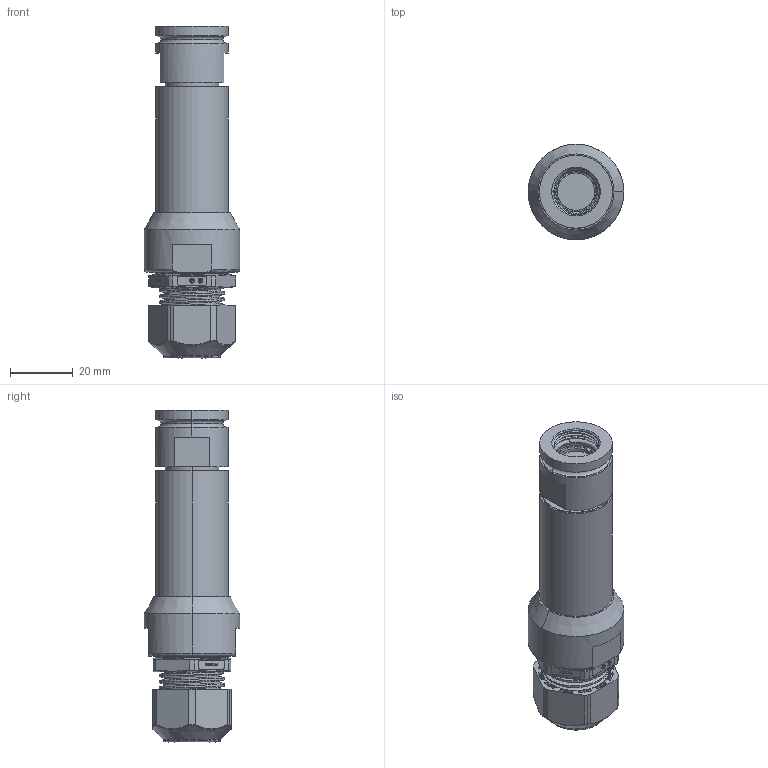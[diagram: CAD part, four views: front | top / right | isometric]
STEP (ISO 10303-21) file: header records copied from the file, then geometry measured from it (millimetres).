
FILE_DESCRIPTION (( 'STEP AP214' ), '1' );
FILE_NAME ('Q38SHELL-STX-11-XXXX-GL.STEP', '2025-09-09T20:38:39', ( '' ), ( '' ), 'SwSTEP 2.0', 'SolidWorks 2024', '' );
FILE_SCHEMA (( 'AUTOMOTIVE_DESIGN' ));
Length unit declared in the file: millimetre
Products named in the file (1): Q38SHELL-STX-11-XXXX-GL
Bounding box: 30.48 x 30.48 x 105.79 mm (x, y, z)
Surface area: 20774.1 mm2 (no closed solid volume)
Topology: 0 solids, 9 shells, 1272 faces, 3229 edges, 2028 vertices
Faces by surface type: plane 602, cylinder 230, bspline 153, torus 123, cone 110, sphere 54
Entity records: 58561 total; most frequent: CARTESIAN_POINT 34299, ORIENTED_EDGE 6416, EDGE_CURVE 3228, DIRECTION 2845, B_SPLINE_CURVE_WITH_KNOTS 2641, VERTEX_POINT 2028, EDGE_LOOP 1337, AXIS2_PLACEMENT_3D 1328
